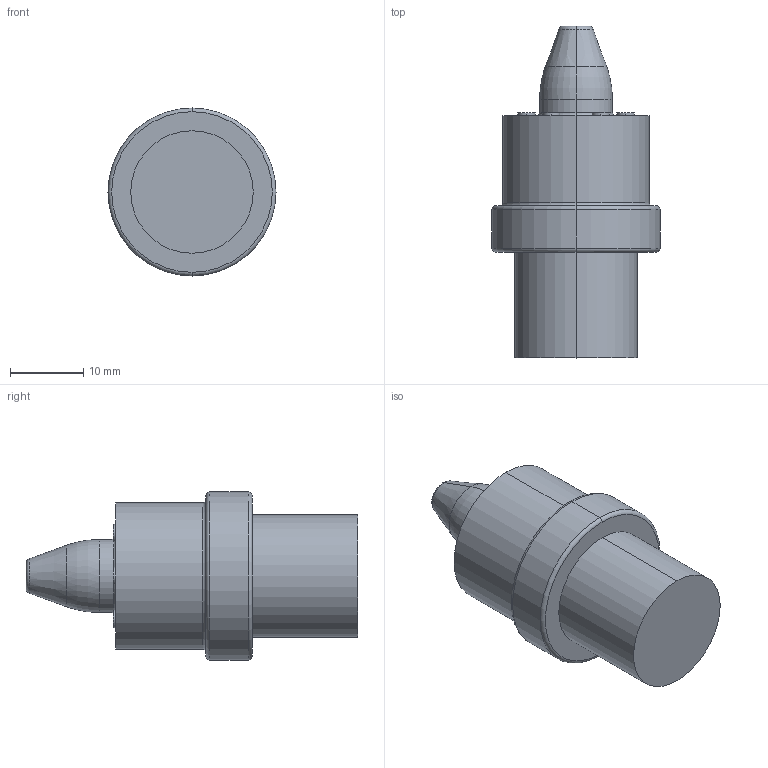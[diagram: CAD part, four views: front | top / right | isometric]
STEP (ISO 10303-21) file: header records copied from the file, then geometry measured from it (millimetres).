
FILE_DESCRIPTION (( 'STEP AP214' ), '1' );
FILE_NAME ('PA-10mm-1.9mm-P-W.stp', '2020-05-04T11:03:29', ( '' ), ( '' ), 'SwSTEP 2.0', 'SolidWorks 2017', '' );
FILE_SCHEMA (( 'AUTOMOTIVE_DESIGN' ));
Length unit declared in the file: inch
Products named in the file (1): PA-10mm-1.9mm-P-W
Bounding box: 23 x 45.43 x 23 mm (x, y, z)
Volume: 10388.6 mm3; surface area: 3056.6 mm2
Topology: 1 solids, 1 shells, 45 faces, 88 edges, 54 vertices
Faces by surface type: cylinder 20, torus 12, plane 11, cone 2
Entity records: 1216 total; most frequent: DIRECTION 246, CARTESIAN_POINT 188, ORIENTED_EDGE 176, AXIS2_PLACEMENT_3D 112, EDGE_CURVE 88, CIRCLE 66, VERTEX_POINT 54, EDGE_LOOP 54
